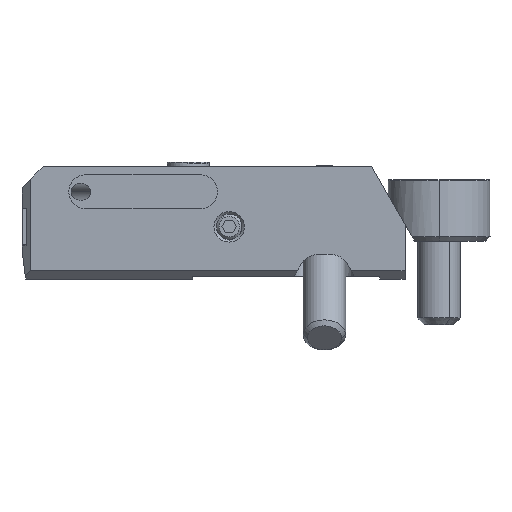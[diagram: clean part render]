
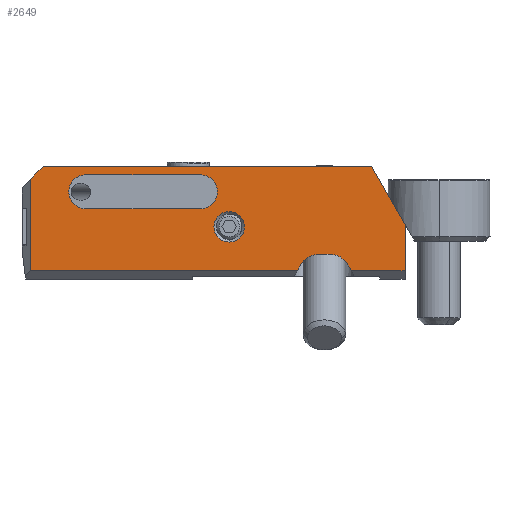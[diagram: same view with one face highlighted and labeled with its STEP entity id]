
A CAD part, front view. The second image highlights one B-rep face of the part: STEP entity #2649.
In plain terms, the highlighted planar face has unit normal (0, -1, 0).
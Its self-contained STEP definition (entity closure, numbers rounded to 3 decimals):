
#466 = CARTESIAN_POINT ( 'NONE',  ( -37.594, 0., 10.271 ) ) ;
#522 = VERTEX_POINT ( 'NONE', #13960 ) ;
#1097 = ORIENTED_EDGE ( 'NONE', *, *, #11114, .F. ) ;
#1298 = CARTESIAN_POINT ( 'NONE',  ( -7.711, 0., 2.889 ) ) ;
#1328 = CARTESIAN_POINT ( 'NONE',  ( -20.7, 0., 6.15 ) ) ;
#1334 = VERTEX_POINT ( 'NONE', #5739 ) ;
#1336 = LINE ( 'NONE', #2785, #5842 ) ;
#1435 = CARTESIAN_POINT ( 'NONE',  ( -10.3, 0., 2.889 ) ) ;
#1498 = DIRECTION ( 'NONE',  ( -1., 0., 0. ) ) ;
#1725 =( BOUNDED_CURVE ( )  B_SPLINE_CURVE ( 3, ( #2661, #13713, #1298, #6907 ),
 .UNSPECIFIED., .F., .T. ) 
 B_SPLINE_CURVE_WITH_KNOTS ( ( 4, 4 ),
 ( 2.111, 3.142 ),
 .UNSPECIFIED. ) 
 CURVE ( )  GEOMETRIC_REPRESENTATION_ITEM ( )  RATIONAL_B_SPLINE_CURVE ( ( 1., 0.913, 0.913, 1. ) ) 
 REPRESENTATION_ITEM ( '' )  );
#1820 = DIRECTION ( 'NONE',  ( 0., 0., -1. ) ) ;
#2038 = EDGE_CURVE ( 'NONE', #9393, #4407, #10996, .T. ) ;
#2637 = VERTEX_POINT ( 'NONE', #11450 ) ;
#2649 = ADVANCED_FACE ( 'NONE', ( #14718, #10251, #5093 ), #4833, .F. ) ;
#2661 = CARTESIAN_POINT ( 'NONE',  ( -6.342, 0., 1. ) ) ;
#2773 = VECTOR ( 'NONE', #14910, 1000. ) ;
#2776 = CARTESIAN_POINT ( 'NONE',  ( -37.594, 0., 8.271 ) ) ;
#2785 = CARTESIAN_POINT ( 'NONE',  ( -45.1, 0., 1. ) ) ;
#2986 = CARTESIAN_POINT ( 'NONE',  ( -24.1, 0., 12.271 ) ) ;
#3264 = ORIENTED_EDGE ( 'NONE', *, *, #8964, .T. ) ;
#3303 = CARTESIAN_POINT ( 'NONE',  ( 0., 0., 6.4 ) ) ;
#3824 = EDGE_CURVE ( 'NONE', #11975, #522, #15818, .T. ) ;
#3918 = VERTEX_POINT ( 'NONE', #4913 ) ;
#3949 = VERTEX_POINT ( 'NONE', #10516 ) ;
#4070 = CARTESIAN_POINT ( 'NONE',  ( -12.658, 0., 1. ) ) ;
#4220 = EDGE_CURVE ( 'NONE', #8854, #10766, #7427, .T. ) ;
#4407 = VERTEX_POINT ( 'NONE', #7594 ) ;
#4437 = CARTESIAN_POINT ( 'NONE',  ( -44.1, 0., 11.75 ) ) ;
#4722 = VERTEX_POINT ( 'NONE', #15501 ) ;
#4808 = EDGE_CURVE ( 'NONE', #17161, #6312, #6055, .T. ) ;
#4833 = PLANE ( 'NONE',  #12440 ) ;
#4913 = CARTESIAN_POINT ( 'NONE',  ( -42.6, 0., 13.25 ) ) ;
#4947 = EDGE_CURVE ( 'NONE', #4722, #1334, #11021, .T. ) ;
#5093 = FACE_OUTER_BOUND ( 'NONE', #5531, .T. ) ;
#5120 = VECTOR ( 'NONE', #10904, 1000. ) ;
#5335 = CARTESIAN_POINT ( 'NONE',  ( -3.955, 0., 13.25 ) ) ;
#5458 = DIRECTION ( 'NONE',  ( 0., -1., 0. ) ) ;
#5531 = EDGE_LOOP ( 'NONE', ( #16287, #6222, #14057, #1097, #10818, #8008, #6455, #15146, #14888, #15285 ) ) ;
#5658 = CIRCLE ( 'NONE', #7953, 1.8 ) ;
#5739 = CARTESIAN_POINT ( 'NONE',  ( -20.7, 0., 7.95 ) ) ;
#5751 = EDGE_CURVE ( 'NONE', #4407, #3949, #15444, .T. ) ;
#5842 = VECTOR ( 'NONE', #8286, 1000. ) ;
#6028 = CARTESIAN_POINT ( 'NONE',  ( -10.3, 0., 2.889 ) ) ;
#6055 = LINE ( 'NONE', #9198, #14233 ) ;
#6070 = VERTEX_POINT ( 'NONE', #2986 ) ;
#6072 = DIRECTION ( 'NONE',  ( 0., 1., 0. ) ) ;
#6222 = ORIENTED_EDGE ( 'NONE', *, *, #16340, .F. ) ;
#6266 = DIRECTION ( 'NONE',  ( 1., 0., 0. ) ) ;
#6312 = VERTEX_POINT ( 'NONE', #4437 ) ;
#6455 = ORIENTED_EDGE ( 'NONE', *, *, #3824, .F. ) ;
#6558 = LINE ( 'NONE', #8066, #2773 ) ;
#6907 = CARTESIAN_POINT ( 'NONE',  ( -8.7, 0., 2.889 ) ) ;
#6979 = AXIS2_PLACEMENT_3D ( 'NONE', #1328, #10737, #13468 ) ;
#7427 = LINE ( 'NONE', #12879, #17687 ) ;
#7594 = CARTESIAN_POINT ( 'NONE',  ( -37.594, 0., 8.271 ) ) ;
#7632 = VECTOR ( 'NONE', #1498, 1000. ) ;
#7953 = AXIS2_PLACEMENT_3D ( 'NONE', #15256, #5458, #8242 ) ;
#8008 = ORIENTED_EDGE ( 'NONE', *, *, #15908, .F. ) ;
#8066 = CARTESIAN_POINT ( 'NONE',  ( -45.1, 0., 10.75 ) ) ;
#8242 = DIRECTION ( 'NONE',  ( 0., 0., 1. ) ) ;
#8286 = DIRECTION ( 'NONE',  ( -1., 0., 0. ) ) ;
#8748 = DIRECTION ( 'NONE',  ( 0., 1., 0. ) ) ;
#8854 = VERTEX_POINT ( 'NONE', #9737 ) ;
#8881 = LINE ( 'NONE', #13066, #16994 ) ;
#8964 = EDGE_CURVE ( 'NONE', #6070, #9393, #14675, .T. ) ;
#9088 = EDGE_CURVE ( 'NONE', #3918, #11975, #17556, .T. ) ;
#9198 = CARTESIAN_POINT ( 'NONE',  ( -44.1, 0., 0. ) ) ;
#9235 = EDGE_LOOP ( 'NONE', ( #9568, #16022 ) ) ;
#9393 = VERTEX_POINT ( 'NONE', #11721 ) ;
#9443 = CARTESIAN_POINT ( 'NONE',  ( 0., 0., 0. ) ) ;
#9568 = ORIENTED_EDGE ( 'NONE', *, *, #4947, .F. ) ;
#9737 = CARTESIAN_POINT ( 'NONE',  ( -8.7, 0., 2.889 ) ) ;
#9757 = CARTESIAN_POINT ( 'NONE',  ( -12.15, 0., 2.2 ) ) ;
#9837 = VECTOR ( 'NONE', #14086, 1000. ) ;
#10251 = FACE_BOUND ( 'NONE', #15775, .T. ) ;
#10516 = CARTESIAN_POINT ( 'NONE',  ( -37.594, 0., 12.271 ) ) ;
#10644 = DIRECTION ( 'NONE',  ( 1., 0., 0. ) ) ;
#10737 = DIRECTION ( 'NONE',  ( 0., -1., 0. ) ) ;
#10766 = VERTEX_POINT ( 'NONE', #6028 ) ;
#10818 = ORIENTED_EDGE ( 'NONE', *, *, #16749, .F. ) ;
#10904 = DIRECTION ( 'NONE',  ( 0., 0., -1. ) ) ;
#10944 = CARTESIAN_POINT ( 'NONE',  ( -11.289, 0., 2.889 ) ) ;
#10996 = LINE ( 'NONE', #2776, #7632 ) ;
#11021 = CIRCLE ( 'NONE', #6979, 1.8 ) ;
#11114 = EDGE_CURVE ( 'NONE', #14863, #8854, #1725, .T. ) ;
#11156 = LINE ( 'NONE', #16792, #13053 ) ;
#11450 = CARTESIAN_POINT ( 'NONE',  ( 0., 0., 1. ) ) ;
#11478 = AXIS2_PLACEMENT_3D ( 'NONE', #17287, #8748, #17198 ) ;
#11559 = ORIENTED_EDGE ( 'NONE', *, *, #5751, .T. ) ;
#11721 = CARTESIAN_POINT ( 'NONE',  ( -24.1, 0., 8.271 ) ) ;
#11975 = VERTEX_POINT ( 'NONE', #5335 ) ;
#11997 = EDGE_CURVE ( 'NONE', #1334, #4722, #5658, .T. ) ;
#12440 = AXIS2_PLACEMENT_3D ( 'NONE', #13073, #13252, #15894 ) ;
#12828 = AXIS2_PLACEMENT_3D ( 'NONE', #466, #6072, #1820 ) ;
#12879 = CARTESIAN_POINT ( 'NONE',  ( -45.1, 0., 2.889 ) ) ;
#12921 = VECTOR ( 'NONE', #10644, 1000. ) ;
#13053 = VECTOR ( 'NONE', #13796, 1000. ) ;
#13066 = CARTESIAN_POINT ( 'NONE',  ( -37.594, 0., 12.271 ) ) ;
#13073 = CARTESIAN_POINT ( 'NONE',  ( -45.1, 0., 0. ) ) ;
#13252 = DIRECTION ( 'NONE',  ( 0., 1., 0. ) ) ;
#13468 = DIRECTION ( 'NONE',  ( 0., 0., 1. ) ) ;
#13502 = ORIENTED_EDGE ( 'NONE', *, *, #15249, .T. ) ;
#13713 = CARTESIAN_POINT ( 'NONE',  ( -6.85, 0., 2.2 ) ) ;
#13796 = DIRECTION ( 'NONE',  ( -1., 0., 0. ) ) ;
#13960 = CARTESIAN_POINT ( 'NONE',  ( 0., 0., 6.4 ) ) ;
#14057 = ORIENTED_EDGE ( 'NONE', *, *, #4220, .F. ) ;
#14065 = VERTEX_POINT ( 'NONE', #14972 ) ;
#14086 = DIRECTION ( 'NONE',  ( 0.5, 0., -0.866 ) ) ;
#14233 = VECTOR ( 'NONE', #17470, 1000. ) ;
#14667 = CARTESIAN_POINT ( 'NONE',  ( -45.1, 0., 13.25 ) ) ;
#14675 = CIRCLE ( 'NONE', #11478, 2. ) ;
#14718 = FACE_BOUND ( 'NONE', #9235, .T. ) ;
#14863 = VERTEX_POINT ( 'NONE', #16621 ) ;
#14888 = ORIENTED_EDGE ( 'NONE', *, *, #14905, .F. ) ;
#14905 = EDGE_CURVE ( 'NONE', #6312, #3918, #6558, .T. ) ;
#14910 = DIRECTION ( 'NONE',  ( 0.707, 0., 0.707 ) ) ;
#14924 = CARTESIAN_POINT ( 'NONE',  ( -44.1, 0., 1. ) ) ;
#14972 = CARTESIAN_POINT ( 'NONE',  ( -12.658, 0., 1. ) ) ;
#15146 = ORIENTED_EDGE ( 'NONE', *, *, #9088, .F. ) ;
#15249 = EDGE_CURVE ( 'NONE', #3949, #6070, #8881, .T. ) ;
#15256 = CARTESIAN_POINT ( 'NONE',  ( -20.7, 0., 6.15 ) ) ;
#15285 = ORIENTED_EDGE ( 'NONE', *, *, #4808, .F. ) ;
#15444 = CIRCLE ( 'NONE', #12828, 2. ) ;
#15501 = CARTESIAN_POINT ( 'NONE',  ( -20.7, 0., 4.35 ) ) ;
#15570 = ORIENTED_EDGE ( 'NONE', *, *, #2038, .T. ) ;
#15775 = EDGE_LOOP ( 'NONE', ( #13502, #3264, #15570, #11559 ) ) ;
#15818 = LINE ( 'NONE', #3303, #9837 ) ;
#15894 = DIRECTION ( 'NONE',  ( 0., 0., 1. ) ) ;
#15908 = EDGE_CURVE ( 'NONE', #522, #2637, #16192, .T. ) ;
#16022 = ORIENTED_EDGE ( 'NONE', *, *, #11997, .F. ) ;
#16192 = LINE ( 'NONE', #9443, #5120 ) ;
#16287 = ORIENTED_EDGE ( 'NONE', *, *, #17778, .F. ) ;
#16340 = EDGE_CURVE ( 'NONE', #10766, #14065, #16656, .T. ) ;
#16621 = CARTESIAN_POINT ( 'NONE',  ( -6.342, 0., 1. ) ) ;
#16656 =( BOUNDED_CURVE ( )  B_SPLINE_CURVE ( 3, ( #1435, #10944, #9757, #4070 ),
 .UNSPECIFIED., .F., .T. ) 
 B_SPLINE_CURVE_WITH_KNOTS ( ( 4, 4 ),
 ( 3.142, 4.172 ),
 .UNSPECIFIED. ) 
 CURVE ( )  GEOMETRIC_REPRESENTATION_ITEM ( )  RATIONAL_B_SPLINE_CURVE ( ( 1., 0.913, 0.913, 1. ) ) 
 REPRESENTATION_ITEM ( '' )  );
#16749 = EDGE_CURVE ( 'NONE', #2637, #14863, #1336, .T. ) ;
#16792 = CARTESIAN_POINT ( 'NONE',  ( -45.1, 0., 1. ) ) ;
#16994 = VECTOR ( 'NONE', #6266, 1000. ) ;
#17059 = DIRECTION ( 'NONE',  ( -1., 0., 0. ) ) ;
#17161 = VERTEX_POINT ( 'NONE', #14924 ) ;
#17198 = DIRECTION ( 'NONE',  ( 0., 0., -1. ) ) ;
#17287 = CARTESIAN_POINT ( 'NONE',  ( -24.1, 0., 10.271 ) ) ;
#17470 = DIRECTION ( 'NONE',  ( 0., 0., 1. ) ) ;
#17556 = LINE ( 'NONE', #14667, #12921 ) ;
#17687 = VECTOR ( 'NONE', #17059, 1000. ) ;
#17778 = EDGE_CURVE ( 'NONE', #14065, #17161, #11156, .T. ) ;
